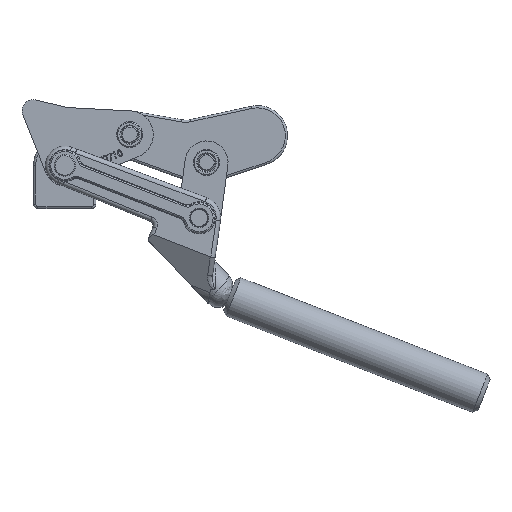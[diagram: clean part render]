
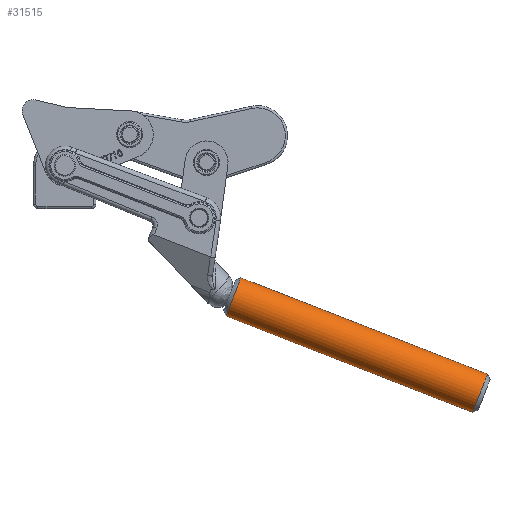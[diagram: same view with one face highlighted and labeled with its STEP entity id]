
A CAD part, top view. The second image highlights one B-rep face of the part: STEP entity #31515.
In plain terms, the highlighted cylindrical face has radius 9.5 mm (diameter 19 mm), a full revolution.
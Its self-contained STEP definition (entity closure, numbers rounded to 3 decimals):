
#2287=CYLINDRICAL_SURFACE('',#33878,9.5);
#3341=FACE_OUTER_BOUND('',#5105,.T.);
#5105=EDGE_LOOP('',(#26024,#26025,#26026,#26027,#26028,#26029,#26030));
#7498=LINE('',#61039,#10416);
#10416=VECTOR('',#39610,9.5);
#12507=CIRCLE('',#33872,9.5);
#12508=CIRCLE('',#33873,9.5);
#12512=CIRCLE('',#33877,9.5);
#12513=CIRCLE('',#33879,9.5);
#12514=CIRCLE('',#33880,9.5);
#14903=VERTEX_POINT('',#61024);
#14904=VERTEX_POINT('',#61025);
#14905=VERTEX_POINT('',#61027);
#14909=VERTEX_POINT('',#61038);
#14910=VERTEX_POINT('',#61040);
#18868=EDGE_CURVE('',#14903,#14904,#12507,.T.);
#18869=EDGE_CURVE('',#14905,#14903,#12508,.T.);
#18874=EDGE_CURVE('',#14904,#14905,#12512,.T.);
#18875=EDGE_CURVE('',#14904,#14909,#7498,.T.);
#18876=EDGE_CURVE('',#14909,#14910,#12513,.T.);
#18877=EDGE_CURVE('',#14910,#14909,#12514,.T.);
#26024=ORIENTED_EDGE('',*,*,#18868,.T.);
#26025=ORIENTED_EDGE('',*,*,#18875,.T.);
#26026=ORIENTED_EDGE('',*,*,#18876,.T.);
#26027=ORIENTED_EDGE('',*,*,#18877,.T.);
#26028=ORIENTED_EDGE('',*,*,#18875,.F.);
#26029=ORIENTED_EDGE('',*,*,#18874,.T.);
#26030=ORIENTED_EDGE('',*,*,#18869,.T.);
#31515=ADVANCED_FACE('',(#3341),#2287,.T.);
#33872=AXIS2_PLACEMENT_3D('',#61026,#39595,#39596);
#33873=AXIS2_PLACEMENT_3D('',#61028,#39597,#39598);
#33877=AXIS2_PLACEMENT_3D('',#61036,#39606,#39607);
#33878=AXIS2_PLACEMENT_3D('',#61037,#39608,#39609);
#33879=AXIS2_PLACEMENT_3D('',#61041,#39611,#39612);
#33880=AXIS2_PLACEMENT_3D('',#61042,#39613,#39614);
#39595=DIRECTION('center_axis',(0.,-1.,0.));
#39596=DIRECTION('ref_axis',(0.,0.,-1.));
#39597=DIRECTION('center_axis',(0.,-1.,0.));
#39598=DIRECTION('ref_axis',(0.,0.,-1.));
#39606=DIRECTION('center_axis',(0.,-1.,0.));
#39607=DIRECTION('ref_axis',(0.,0.,-1.));
#39608=DIRECTION('center_axis',(0.,1.,0.));
#39609=DIRECTION('ref_axis',(-1.,0.,0.));
#39610=DIRECTION('',(0.,-1.,0.));
#39611=DIRECTION('center_axis',(0.,1.,0.));
#39612=DIRECTION('ref_axis',(-1.,0.,0.));
#39613=DIRECTION('center_axis',(0.,1.,0.));
#39614=DIRECTION('ref_axis',(-1.,0.,0.));
#61024=CARTESIAN_POINT('',(18.855,218.256,0.));
#61025=CARTESIAN_POINT('',(37.855,218.256,0.));
#61026=CARTESIAN_POINT('Origin',(28.355,218.256,0.));
#61027=CARTESIAN_POINT('',(28.355,218.256,9.5));
#61028=CARTESIAN_POINT('Origin',(28.355,218.256,0.));
#61036=CARTESIAN_POINT('Origin',(28.355,218.256,0.));
#61037=CARTESIAN_POINT('Origin',(28.355,102.222,0.));
#61038=CARTESIAN_POINT('',(37.855,95.256,0.));
#61039=CARTESIAN_POINT('',(37.855,102.222,0.));
#61040=CARTESIAN_POINT('',(18.855,95.256,0.));
#61041=CARTESIAN_POINT('Origin',(28.355,95.256,0.));
#61042=CARTESIAN_POINT('Origin',(28.355,95.256,0.));
